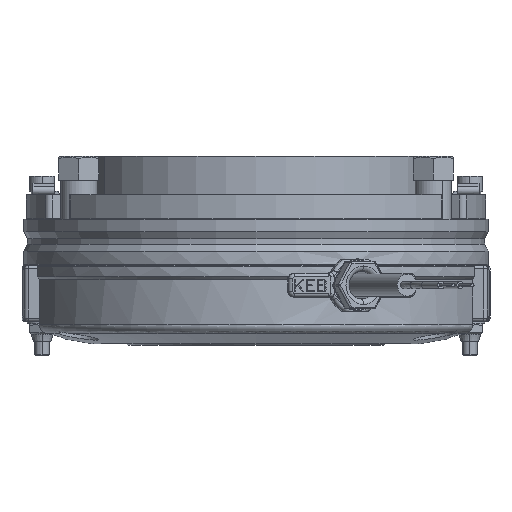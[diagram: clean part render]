
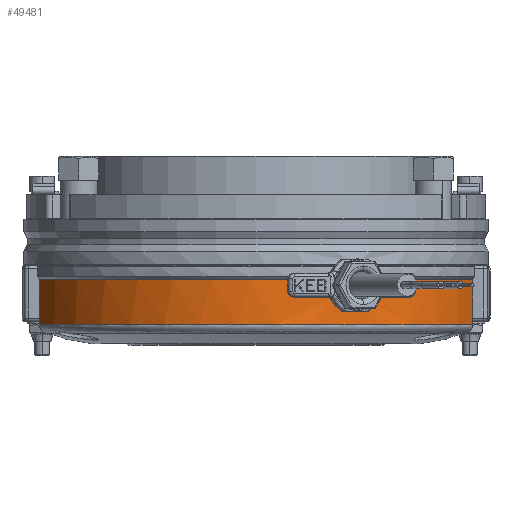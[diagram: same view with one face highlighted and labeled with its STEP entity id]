
A CAD part, front view. The second image highlights one B-rep face of the part: STEP entity #49481.
In plain terms, the highlighted cylindrical face has radius 62.75 mm (diameter 125.5 mm), a partial arc.
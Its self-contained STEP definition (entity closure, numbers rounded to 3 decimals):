
#961 = ORIENTED_EDGE ( 'NONE', *, *, #4543, .T. ) ;
#3140 = ORIENTED_EDGE ( 'NONE', *, *, #44805, .T. ) ;
#3341 = ORIENTED_EDGE ( 'NONE', *, *, #54820, .T. ) ;
#3703 = CARTESIAN_POINT ( 'NONE',  ( 0., 0., 18. ) ) ;
#4543 = EDGE_CURVE ( 'NONE', #31811, #16084, #45566, .T. ) ;
#4855 = CARTESIAN_POINT ( 'NONE',  ( 31.162, -54.467, 11.588 ) ) ;
#5805 = CARTESIAN_POINT ( 'NONE',  ( 25.549, -57.316, 9.41 ) ) ;
#6837 = EDGE_CURVE ( 'NONE', #16084, #16168, #48224, .T. ) ;
#8593 = CARTESIAN_POINT ( 'NONE',  ( 19.936, -59.499, 15.353 ) ) ;
#9176 = CARTESIAN_POINT ( 'NONE',  ( 24.602, -57.728, 9.645 ) ) ;
#9188 = DIRECTION ( 'NONE',  ( 0., 0., 1. ) ) ;
#9729 = CARTESIAN_POINT ( 'NONE',  ( 32.396, -53.741, 13.817 ) ) ;
#9980 = AXIS2_PLACEMENT_3D ( 'NONE', #3703, #55263, #14039 ) ;
#10076 = CARTESIAN_POINT ( 'NONE',  ( 23.245, -58.288, 10.28 ) ) ;
#10252 = CARTESIAN_POINT ( 'NONE',  ( 26.519, -56.871, 9.35 ) ) ;
#10657 = CARTESIAN_POINT ( 'NONE',  ( 32.832, -53.476, 16.953 ) ) ;
#13371 = VECTOR ( 'NONE', #44970, 1000. ) ;
#13979 = CARTESIAN_POINT ( 'NONE',  ( 28.411, -55.952, 9.645 ) ) ;
#14039 = DIRECTION ( 'NONE',  ( -1., 0., 0. ) ) ;
#14288 = CARTESIAN_POINT ( 'NONE',  ( 31.993, -53.982, 12.868 ) ) ;
#14342 = CARTESIAN_POINT ( 'NONE',  ( 21.688, -58.884, 11.595 ) ) ;
#14549 = CARTESIAN_POINT ( 'NONE',  ( 59.326, -20.445, 18. ) ) ;
#14582 = CARTESIAN_POINT ( 'NONE',  ( 32.69, -53.562, 18. ) ) ;
#14866 = CARTESIAN_POINT ( 'NONE',  ( 32.554, -53.645, 14.326 ) ) ;
#16084 = VERTEX_POINT ( 'NONE', #57544 ) ;
#16168 = VERTEX_POINT ( 'NONE', #54472 ) ;
#17151 = CARTESIAN_POINT ( 'NONE',  ( -59.326, -20.445, -2.187 ) ) ;
#17762 = B_SPLINE_CURVE_WITH_KNOTS ( 'NONE', 3,
 ( #18518, #37204, #46630, #13979, #56117, #32607, #51198, #51493, #4855, #23394, #14288, #9729, #14866, #24594, #52681, #10657, #38123, #14582 ),
 .UNSPECIFIED., .F., .F.,
 ( 4, 2, 2, 2, 2, 2, 2, 2, 4 ),
 ( 0.022, 0.024, 0.026, 0.027, 0.029, 0.03, 0.032, 0.033, 0.035 ),
 .UNSPECIFIED. ) ;
#18382 = LINE ( 'NONE', #46766, #44674 ) ;
#18518 = CARTESIAN_POINT ( 'NONE',  ( 26.519, -56.871, 9.35 ) ) ;
#18972 = DIRECTION ( 'NONE',  ( 0., 0., 1. ) ) ;
#19166 = CARTESIAN_POINT ( 'NONE',  ( 21.06, -59.111, 12.419 ) ) ;
#19467 = CARTESIAN_POINT ( 'NONE',  ( 26.519, -56.871, 9.35 ) ) ;
#22103 = CARTESIAN_POINT ( 'NONE',  ( 20.018, -59.471, 18. ) ) ;
#22281 = CARTESIAN_POINT ( 'NONE',  ( 32.69, -53.562, 18. ) ) ;
#22836 = CARTESIAN_POINT ( 'NONE',  ( 19.911, -59.507, 17.477 ) ) ;
#23256 = DIRECTION ( 'NONE',  ( -1., 0., 0. ) ) ;
#23320 = CARTESIAN_POINT ( 'NONE',  ( -59.326, -20.445, 18. ) ) ;
#23394 = CARTESIAN_POINT ( 'NONE',  ( 31.746, -54.128, 12.421 ) ) ;
#24594 = CARTESIAN_POINT ( 'NONE',  ( 32.765, -53.517, 15.357 ) ) ;
#25790 = AXIS2_PLACEMENT_3D ( 'NONE', #60368, #31356, #40874 ) ;
#26189 = EDGE_CURVE ( 'NONE', #51769, #51870, #27553, .T. ) ;
#26607 = FACE_OUTER_BOUND ( 'NONE', #60108, .T. ) ;
#27273 = ORIENTED_EDGE ( 'NONE', *, *, #6837, .T. ) ;
#27553 = B_SPLINE_CURVE_WITH_KNOTS ( 'NONE', 3,
 ( #46060, #22836, #31755, #50347, #8593, #41545, #35752, #36964, #19166, #14342, #28057, #43045, #10076, #55849, #9176, #5805, #55562, #19467 ),
 .UNSPECIFIED., .F., .F.,
 ( 4, 2, 2, 2, 2, 2, 2, 2, 4 ),
 ( 0.01, 0.011, 0.013, 0.014, 0.016, 0.018, 0.019, 0.021, 0.022 ),
 .UNSPECIFIED. ) ;
#27768 = CIRCLE ( 'NONE', #25790, 62.75 ) ;
#28057 = CARTESIAN_POINT ( 'NONE',  ( 22.049, -58.75, 11.216 ) ) ;
#30415 = VERTEX_POINT ( 'NONE', #14549 ) ;
#31356 = DIRECTION ( 'NONE',  ( 0., 0., -1. ) ) ;
#31755 = CARTESIAN_POINT ( 'NONE',  ( 19.861, -59.524, 16.95 ) ) ;
#31811 = VERTEX_POINT ( 'NONE', #23320 ) ;
#32072 = CARTESIAN_POINT ( 'NONE',  ( 0., 0., 5.728 ) ) ;
#32607 = CARTESIAN_POINT ( 'NONE',  ( 29.702, -55.277, 10.275 ) ) ;
#32650 = AXIS2_PLACEMENT_3D ( 'NONE', #32072, #9188, #46390 ) ;
#33073 = DIRECTION ( 'NONE',  ( 0., 0., -1. ) ) ;
#35752 = CARTESIAN_POINT ( 'NONE',  ( 20.341, -59.362, 13.824 ) ) ;
#36692 = ORIENTED_EDGE ( 'NONE', *, *, #26189, .F. ) ;
#36964 = CARTESIAN_POINT ( 'NONE',  ( 20.79, -59.206, 12.864 ) ) ;
#37204 = CARTESIAN_POINT ( 'NONE',  ( 26.999, -56.647, 9.35 ) ) ;
#38123 = CARTESIAN_POINT ( 'NONE',  ( 32.785, -53.504, 17.482 ) ) ;
#38263 = CARTESIAN_POINT ( 'NONE',  ( 0., 0., -2.187 ) ) ;
#40874 = DIRECTION ( 'NONE',  ( -1., 0., 0. ) ) ;
#41545 = CARTESIAN_POINT ( 'NONE',  ( 20.17, -59.42, 14.324 ) ) ;
#41571 = ORIENTED_EDGE ( 'NONE', *, *, #45899, .F. ) ;
#41669 = AXIS2_PLACEMENT_3D ( 'NONE', #38263, #33073, #23256 ) ;
#43045 = CARTESIAN_POINT ( 'NONE',  ( 22.826, -58.453, 10.561 ) ) ;
#44086 = CIRCLE ( 'NONE', #9980, 62.75 ) ;
#44674 = VECTOR ( 'NONE', #18972, 1000. ) ;
#44805 = EDGE_CURVE ( 'NONE', #30415, #58356, #44086, .T. ) ;
#44970 = DIRECTION ( 'NONE',  ( 0., 0., -1. ) ) ;
#44995 = CYLINDRICAL_SURFACE ( 'NONE', #41669, 62.75 ) ;
#45566 = LINE ( 'NONE', #17151, #13371 ) ;
#45899 = EDGE_CURVE ( 'NONE', #51870, #58356, #17762, .T. ) ;
#46060 = CARTESIAN_POINT ( 'NONE',  ( 20.018, -59.471, 18. ) ) ;
#46390 = DIRECTION ( 'NONE',  ( 1., 0., 0. ) ) ;
#46630 = CARTESIAN_POINT ( 'NONE',  ( 27.474, -56.418, 9.408 ) ) ;
#46766 = CARTESIAN_POINT ( 'NONE',  ( 59.326, -20.445, -2.187 ) ) ;
#48224 = CIRCLE ( 'NONE', #32650, 62.75 ) ;
#49481 = ADVANCED_FACE ( 'NONE', ( #26607 ), #44995, .T. ) ;
#50347 = CARTESIAN_POINT ( 'NONE',  ( 19.873, -59.52, 15.89 ) ) ;
#51198 = CARTESIAN_POINT ( 'NONE',  ( 30.106, -55.058, 10.561 ) ) ;
#51493 = CARTESIAN_POINT ( 'NONE',  ( 30.834, -54.654, 11.217 ) ) ;
#51769 = VERTEX_POINT ( 'NONE', #22103 ) ;
#51870 = VERTEX_POINT ( 'NONE', #10252 ) ;
#52681 = CARTESIAN_POINT ( 'NONE',  ( 32.821, -53.482, 15.882 ) ) ;
#54472 = CARTESIAN_POINT ( 'NONE',  ( 59.326, -20.445, 5.728 ) ) ;
#54820 = EDGE_CURVE ( 'NONE', #51769, #31811, #27768, .T. ) ;
#55263 = DIRECTION ( 'NONE',  ( 0., 0., -1. ) ) ;
#55562 = CARTESIAN_POINT ( 'NONE',  ( 26.039, -57.095, 9.35 ) ) ;
#55849 = CARTESIAN_POINT ( 'NONE',  ( 24.141, -57.922, 9.818 ) ) ;
#56117 = CARTESIAN_POINT ( 'NONE',  ( 28.856, -55.724, 9.819 ) ) ;
#56817 = EDGE_CURVE ( 'NONE', #16168, #30415, #18382, .T. ) ;
#57100 = ORIENTED_EDGE ( 'NONE', *, *, #56817, .T. ) ;
#57544 = CARTESIAN_POINT ( 'NONE',  ( -59.326, -20.445, 5.728 ) ) ;
#58356 = VERTEX_POINT ( 'NONE', #22281 ) ;
#60108 = EDGE_LOOP ( 'NONE', ( #36692, #3341, #961, #27273, #57100, #3140, #41571 ) ) ;
#60368 = CARTESIAN_POINT ( 'NONE',  ( 0., 0., 18. ) ) ;
